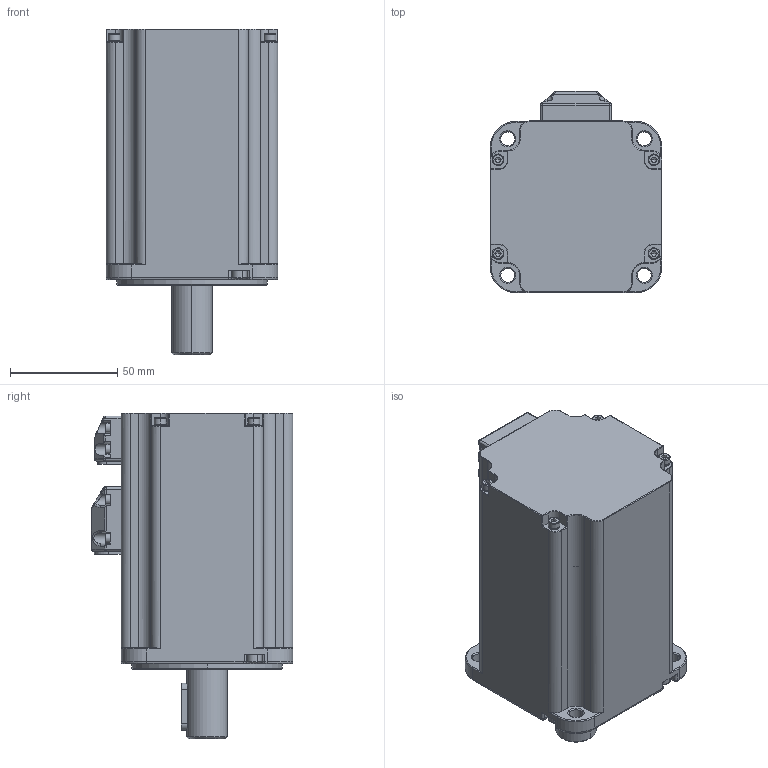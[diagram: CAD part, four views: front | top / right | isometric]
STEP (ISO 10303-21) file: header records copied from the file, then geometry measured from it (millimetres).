
FILE_DESCRIPTION (( 'STEP AP203' ), '1' );
FILE_NAME ('123.STEP', '2022-02-08T04:41:48', ( '' ), ( '' ), 'SwSTEP 2.0', 'SolidWorks 2018', '' );
FILE_SCHEMA (( 'CONFIG_CONTROL_DESIGN' ));
Length unit declared in the file: millimetre
Products named in the file (1): 123
Bounding box: 80 x 94 x 151.9 mm (x, y, z)
Volume: 683951.2 mm3; surface area: 66576 mm2
Topology: 11 solids, 26 shells, 1337 faces, 3198 edges, 1912 vertices
Faces by surface type: cylinder 517, plane 489, torus 197, cone 88, sphere 30, bspline 16
Entity records: 41376 total; most frequent: CARTESIAN_POINT 10139, DIRECTION 6988, ORIENTED_EDGE 6272, EDGE_CURVE 3136, AXIS2_PLACEMENT_3D 2756, VERTEX_POINT 1912, LINE 1476, VECTOR 1476
